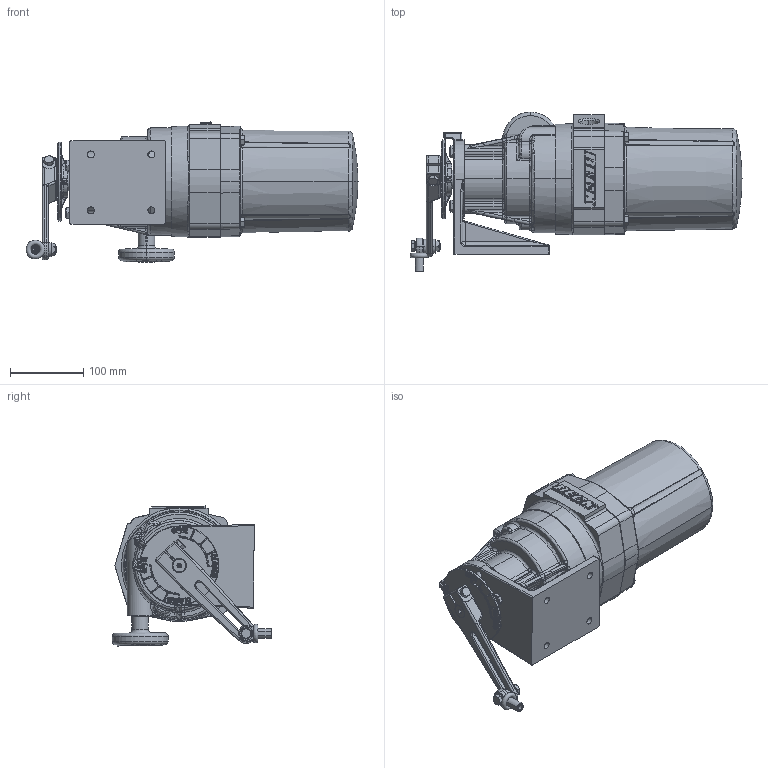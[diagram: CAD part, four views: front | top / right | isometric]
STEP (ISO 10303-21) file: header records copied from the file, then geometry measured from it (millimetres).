
FILE_DESCRIPTION (( 'STEP AP203' ), '1' );
FILE_NAME ('18-0031-01_B.STEP', '2011-06-17T20:36:24', ( '' ), ( '' ), 'SwSTEP 2.0', 'SolidWorks 2009', '' );
FILE_SCHEMA (( 'CONFIG_CONTROL_DESIGN' ));
Length unit declared in the file: inch
Products named in the file (1): 18-0031-01_B
Bounding box: 452.68 x 217.6 x 190.91 mm (x, y, z)
Volume: 2670104.2 mm3; surface area: 638697.3 mm2
Topology: 26 solids, 26 shells, 3855 faces, 8793 edges, 4898 vertices
Faces by surface type: cylinder 1231, torus 637, plane 566, bspline 548, cone 525, sphere 348
Entity records: 196638 total; most frequent: CARTESIAN_POINT 112714, DIRECTION 18559, ORIENTED_EDGE 17034, EDGE_CURVE 8517, AXIS2_PLACEMENT_3D 7877, VERTEX_POINT 4815, CIRCLE 4569, EDGE_LOOP 4052
